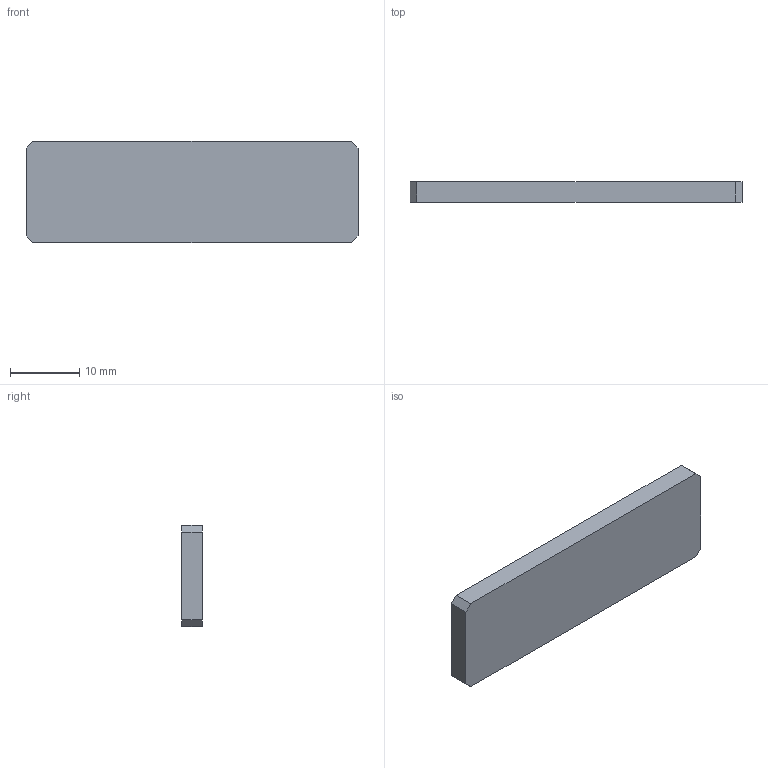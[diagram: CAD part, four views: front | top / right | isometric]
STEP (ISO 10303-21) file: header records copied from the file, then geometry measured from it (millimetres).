
FILE_DESCRIPTION (( 'STEP AP214' ), '1' );
FILE_NAME ('MONO_038-p304_01.STEP', '2025-09-23T04:58:16', ( '' ), ( '' ), 'SwSTEP 2.0', 'SolidWorks 2024', '' );
FILE_SCHEMA (( 'AUTOMOTIVE_DESIGN' ));
Length unit declared in the file: millimetre
Products named in the file (1): MONO_038-p304_01
Bounding box: 48 x 3 x 14.7 mm (x, y, z)
Volume: 2110.8 mm3; surface area: 1776.4 mm2
Topology: 1 solids, 1 shells, 10 faces, 24 edges, 16 vertices
Faces by surface type: plane 10
Entity records: 311 total; most frequent: CARTESIAN_POINT 51, ORIENTED_EDGE 48, DIRECTION 46, VECTOR 24, LINE 24, EDGE_CURVE 24, VERTEX_POINT 16, AXIS2_PLACEMENT_3D 11
